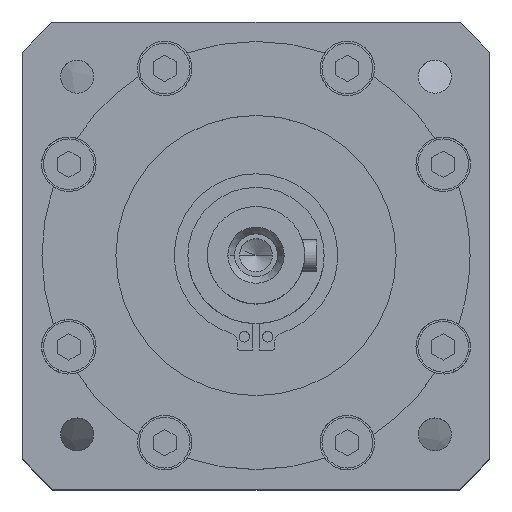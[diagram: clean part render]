
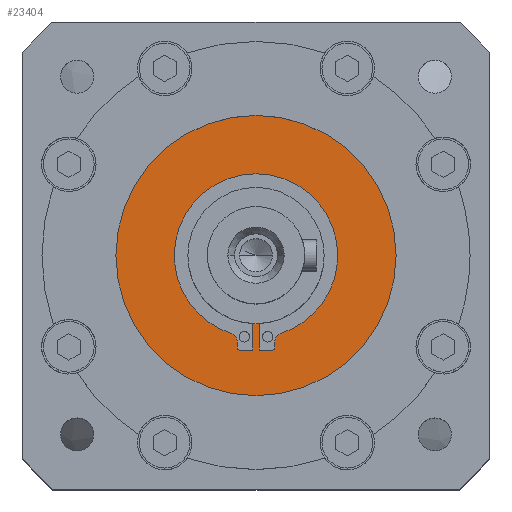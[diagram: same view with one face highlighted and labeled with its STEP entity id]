
A CAD part, top view. The second image highlights one B-rep face of the part: STEP entity #23404.
In plain terms, the highlighted planar face has unit normal (0, 0, 1).
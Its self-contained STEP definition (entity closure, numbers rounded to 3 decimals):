
#200 = ORIENTED_EDGE ( 'NONE', *, *, #18067, .F. ) ;
#771 = AXIS2_PLACEMENT_3D ( 'NONE', #18612, #20532, #9204 ) ;
#842 = DIRECTION ( 'NONE',  ( 1., 0., 0. ) ) ;
#943 = DIRECTION ( 'NONE',  ( 0., 0., 1. ) ) ;
#997 = DIRECTION ( 'NONE',  ( 0., 1., 0. ) ) ;
#1172 = ORIENTED_EDGE ( 'NONE', *, *, #19584, .F. ) ;
#1405 = CIRCLE ( 'NONE', #12537, 21. ) ;
#1530 = CARTESIAN_POINT ( 'NONE',  ( 0., 0., -2.7 ) ) ;
#1807 = CARTESIAN_POINT ( 'NONE',  ( 36., 0., -2.7 ) ) ;
#2120 = CIRCLE ( 'NONE', #19111, 21. ) ;
#2163 = VERTEX_POINT ( 'NONE', #7243 ) ;
#2497 = EDGE_CURVE ( 'NONE', #17199, #17175, #10979, .T. ) ;
#2586 = AXIS2_PLACEMENT_3D ( 'NONE', #11096, #24261, #12980 ) ;
#2615 = DIRECTION ( 'NONE',  ( 0., 0., 1. ) ) ;
#2654 = DIRECTION ( 'NONE',  ( 1., 0., 0. ) ) ;
#3195 = CARTESIAN_POINT ( 'NONE',  ( -6.568, -19.946, -2.7 ) ) ;
#3406 = DIRECTION ( 'NONE',  ( 1., 0., 0. ) ) ;
#3694 = ORIENTED_EDGE ( 'NONE', *, *, #10957, .F. ) ;
#3730 = CARTESIAN_POINT ( 'NONE',  ( 4.85, -22.321, -2.7 ) ) ;
#4004 = EDGE_CURVE ( 'NONE', #16188, #4239, #23927, .T. ) ;
#4168 = AXIS2_PLACEMENT_3D ( 'NONE', #12213, #943, #14116 ) ;
#4239 = VERTEX_POINT ( 'NONE', #17583 ) ;
#4448 = ORIENTED_EDGE ( 'NONE', *, *, #22919, .F. ) ;
#4639 = LINE ( 'NONE', #14979, #24105 ) ;
#4900 = ORIENTED_EDGE ( 'NONE', *, *, #22876, .F. ) ;
#5038 = ORIENTED_EDGE ( 'NONE', *, *, #5867, .F. ) ;
#5465 = CARTESIAN_POINT ( 'NONE',  ( 0., 0., -2.7 ) ) ;
#5867 = EDGE_CURVE ( 'NONE', #13150, #13024, #7891, .T. ) ;
#6323 = CARTESIAN_POINT ( 'NONE',  ( -0.85, -24.279, -2.7 ) ) ;
#6529 = EDGE_CURVE ( 'NONE', #13024, #2163, #23539, .T. ) ;
#6729 = CARTESIAN_POINT ( 'NONE',  ( 4.85, -23.779, -2.7 ) ) ;
#6749 = ORIENTED_EDGE ( 'NONE', *, *, #2497, .F. ) ;
#6864 = LINE ( 'NONE', #12262, #16891 ) ;
#6931 = CARTESIAN_POINT ( 'NONE',  ( 0., 0., -2.7 ) ) ;
#6986 = VECTOR ( 'NONE', #2654, 1000. ) ;
#7212 = CARTESIAN_POINT ( 'NONE',  ( 21., 0., -2.7 ) ) ;
#7232 = CIRCLE ( 'NONE', #14970, 21. ) ;
#7243 = CARTESIAN_POINT ( 'NONE',  ( -4.85, -23.779, -2.7 ) ) ;
#7353 = DIRECTION ( 'NONE',  ( 1., 0., 0. ) ) ;
#7439 = VECTOR ( 'NONE', #842, 1000. ) ;
#7532 = EDGE_LOOP ( 'NONE', ( #12355, #11307 ) ) ;
#7870 = VERTEX_POINT ( 'NONE', #6729 ) ;
#7891 = CIRCLE ( 'NONE', #20772, 2.5 ) ;
#8006 = CARTESIAN_POINT ( 'NONE',  ( 0., 0., -2.7 ) ) ;
#8017 = LINE ( 'NONE', #21489, #7439 ) ;
#8228 = EDGE_LOOP ( 'NONE', ( #4900, #3694, #24221, #5038, #17054, #11032, #19667, #1172, #17876, #17323, #200, #6749, #4448, #20124 ) ) ;
#8255 = CARTESIAN_POINT ( 'NONE',  ( -4.85, -22.321, -2.7 ) ) ;
#8801 = DIRECTION ( 'NONE',  ( -1., 0., 0. ) ) ;
#8847 = CARTESIAN_POINT ( 'NONE',  ( -4.85, 0., -2.7 ) ) ;
#9119 = PLANE ( 'NONE',  #771 ) ;
#9204 = DIRECTION ( 'NONE',  ( -1., 0., 0. ) ) ;
#9311 = CARTESIAN_POINT ( 'NONE',  ( -7.35, -22.321, -2.7 ) ) ;
#9475 = CARTESIAN_POINT ( 'NONE',  ( -4.35, -23.779, -2.7 ) ) ;
#9933 = DIRECTION ( 'NONE',  ( -1., 0., 0. ) ) ;
#10695 = VERTEX_POINT ( 'NONE', #13982 ) ;
#10734 = CARTESIAN_POINT ( 'NONE',  ( 7.35, -22.321, -2.7 ) ) ;
#10843 = CIRCLE ( 'NONE', #4168, 17.5 ) ;
#10957 = EDGE_CURVE ( 'NONE', #2163, #10695, #11585, .T. ) ;
#10979 = LINE ( 'NONE', #12691, #12165 ) ;
#11032 = ORIENTED_EDGE ( 'NONE', *, *, #13485, .F. ) ;
#11096 = CARTESIAN_POINT ( 'NONE',  ( 4.35, -23.779, -2.7 ) ) ;
#11206 = AXIS2_PLACEMENT_3D ( 'NONE', #9475, #22667, #11390 ) ;
#11217 = DIRECTION ( 'NONE',  ( -1., 0., 0. ) ) ;
#11307 = ORIENTED_EDGE ( 'NONE', *, *, #20624, .T. ) ;
#11390 = DIRECTION ( 'NONE',  ( -1., 0., 0. ) ) ;
#11469 = CIRCLE ( 'NONE', #14762, 36. ) ;
#11585 = CIRCLE ( 'NONE', #11206, 0.5 ) ;
#11779 = VERTEX_POINT ( 'NONE', #7212 ) ;
#12012 = CARTESIAN_POINT ( 'NONE',  ( -0.85, -17.479, -2.7 ) ) ;
#12165 = VECTOR ( 'NONE', #16475, 1000. ) ;
#12213 = CARTESIAN_POINT ( 'NONE',  ( 0., 0., -2.7 ) ) ;
#12262 = CARTESIAN_POINT ( 'NONE',  ( 4.85, 0., -2.7 ) ) ;
#12355 = ORIENTED_EDGE ( 'NONE', *, *, #4004, .T. ) ;
#12382 = CARTESIAN_POINT ( 'NONE',  ( -21., 0., -2.7 ) ) ;
#12464 = AXIS2_PLACEMENT_3D ( 'NONE', #10734, #23890, #12631 ) ;
#12537 = AXIS2_PLACEMENT_3D ( 'NONE', #8006, #21228, #9933 ) ;
#12631 = DIRECTION ( 'NONE',  ( -1., 0., 0. ) ) ;
#12691 = CARTESIAN_POINT ( 'NONE',  ( 0.85, 0., -2.7 ) ) ;
#12980 = DIRECTION ( 'NONE',  ( -1., 0., 0. ) ) ;
#13024 = VERTEX_POINT ( 'NONE', #8255 ) ;
#13150 = VERTEX_POINT ( 'NONE', #3195 ) ;
#13485 = EDGE_CURVE ( 'NONE', #11779, #20940, #2120, .T. ) ;
#13905 = CARTESIAN_POINT ( 'NONE',  ( 0., 0., -2.7 ) ) ;
#13938 = CARTESIAN_POINT ( 'NONE',  ( 0., -24.279, -2.7 ) ) ;
#13982 = CARTESIAN_POINT ( 'NONE',  ( -4.35, -24.279, -2.7 ) ) ;
#14116 = DIRECTION ( 'NONE',  ( -1., 0., 0. ) ) ;
#14611 = VERTEX_POINT ( 'NONE', #3730 ) ;
#14721 = DIRECTION ( 'NONE',  ( 0., 0., 1. ) ) ;
#14762 = AXIS2_PLACEMENT_3D ( 'NONE', #1530, #14721, #3406 ) ;
#14970 = AXIS2_PLACEMENT_3D ( 'NONE', #13905, #2615, #15785 ) ;
#14979 = CARTESIAN_POINT ( 'NONE',  ( -0.85, 0., -2.7 ) ) ;
#15010 = EDGE_CURVE ( 'NONE', #20940, #13150, #1405, .T. ) ;
#15526 = FACE_OUTER_BOUND ( 'NONE', #7532, .T. ) ;
#15785 = DIRECTION ( 'NONE',  ( -1., 0., 0. ) ) ;
#15842 = LINE ( 'NONE', #13938, #6986 ) ;
#16188 = VERTEX_POINT ( 'NONE', #1807 ) ;
#16475 = DIRECTION ( 'NONE',  ( 0., -1., 0. ) ) ;
#16574 = CARTESIAN_POINT ( 'NONE',  ( 4.35, -24.279, -2.7 ) ) ;
#16891 = VECTOR ( 'NONE', #997, 1000. ) ;
#17054 = ORIENTED_EDGE ( 'NONE', *, *, #15010, .F. ) ;
#17175 = VERTEX_POINT ( 'NONE', #18075 ) ;
#17199 = VERTEX_POINT ( 'NONE', #23748 ) ;
#17323 = ORIENTED_EDGE ( 'NONE', *, *, #20215, .F. ) ;
#17364 = CIRCLE ( 'NONE', #2586, 0.5 ) ;
#17583 = CARTESIAN_POINT ( 'NONE',  ( -36., 0., -2.7 ) ) ;
#17612 = VERTEX_POINT ( 'NONE', #6323 ) ;
#17876 = ORIENTED_EDGE ( 'NONE', *, *, #18103, .F. ) ;
#18067 = EDGE_CURVE ( 'NONE', #17175, #23333, #8017, .T. ) ;
#18075 = CARTESIAN_POINT ( 'NONE',  ( 0.85, -24.279, -2.7 ) ) ;
#18103 = EDGE_CURVE ( 'NONE', #7870, #14611, #6864, .T. ) ;
#18418 = AXIS2_PLACEMENT_3D ( 'NONE', #5465, #18660, #7353 ) ;
#18612 = CARTESIAN_POINT ( 'NONE',  ( 0., 0., -2.7 ) ) ;
#18660 = DIRECTION ( 'NONE',  ( 0., 0., 1. ) ) ;
#18730 = DIRECTION ( 'NONE',  ( 0., 1., 0. ) ) ;
#19111 = AXIS2_PLACEMENT_3D ( 'NONE', #6931, #20139, #8801 ) ;
#19341 = FACE_BOUND ( 'NONE', #8228, .T. ) ;
#19584 = EDGE_CURVE ( 'NONE', #14611, #22109, #23028, .T. ) ;
#19667 = ORIENTED_EDGE ( 'NONE', *, *, #24013, .F. ) ;
#20124 = ORIENTED_EDGE ( 'NONE', *, *, #22292, .F. ) ;
#20139 = DIRECTION ( 'NONE',  ( 0., 0., 1. ) ) ;
#20192 = DIRECTION ( 'NONE',  ( 0., -1., 0. ) ) ;
#20215 = EDGE_CURVE ( 'NONE', #23333, #7870, #17364, .T. ) ;
#20532 = DIRECTION ( 'NONE',  ( 0., 0., -1. ) ) ;
#20624 = EDGE_CURVE ( 'NONE', #4239, #16188, #11469, .T. ) ;
#20772 = AXIS2_PLACEMENT_3D ( 'NONE', #9311, #22505, #11217 ) ;
#20940 = VERTEX_POINT ( 'NONE', #12382 ) ;
#21228 = DIRECTION ( 'NONE',  ( 0., 0., 1. ) ) ;
#21489 = CARTESIAN_POINT ( 'NONE',  ( 0., -24.279, -2.7 ) ) ;
#21804 = CARTESIAN_POINT ( 'NONE',  ( 6.568, -19.946, -2.7 ) ) ;
#22109 = VERTEX_POINT ( 'NONE', #21804 ) ;
#22292 = EDGE_CURVE ( 'NONE', #17612, #24024, #4639, .T. ) ;
#22505 = DIRECTION ( 'NONE',  ( 0., 0., -1. ) ) ;
#22667 = DIRECTION ( 'NONE',  ( 0., 0., 1. ) ) ;
#22876 = EDGE_CURVE ( 'NONE', #10695, #17612, #15842, .T. ) ;
#22919 = EDGE_CURVE ( 'NONE', #24024, #17199, #10843, .T. ) ;
#23028 = CIRCLE ( 'NONE', #12464, 2.5 ) ;
#23333 = VERTEX_POINT ( 'NONE', #16574 ) ;
#23404 = ADVANCED_FACE ( 'NONE', ( #19341, #15526 ), #9119, .F. ) ;
#23539 = LINE ( 'NONE', #8847, #24126 ) ;
#23748 = CARTESIAN_POINT ( 'NONE',  ( 0.85, -17.479, -2.7 ) ) ;
#23890 = DIRECTION ( 'NONE',  ( 0., 0., -1. ) ) ;
#23927 = CIRCLE ( 'NONE', #18418, 36. ) ;
#24013 = EDGE_CURVE ( 'NONE', #22109, #11779, #7232, .T. ) ;
#24024 = VERTEX_POINT ( 'NONE', #12012 ) ;
#24105 = VECTOR ( 'NONE', #18730, 1000. ) ;
#24126 = VECTOR ( 'NONE', #20192, 1000. ) ;
#24221 = ORIENTED_EDGE ( 'NONE', *, *, #6529, .F. ) ;
#24261 = DIRECTION ( 'NONE',  ( 0., 0., 1. ) ) ;
